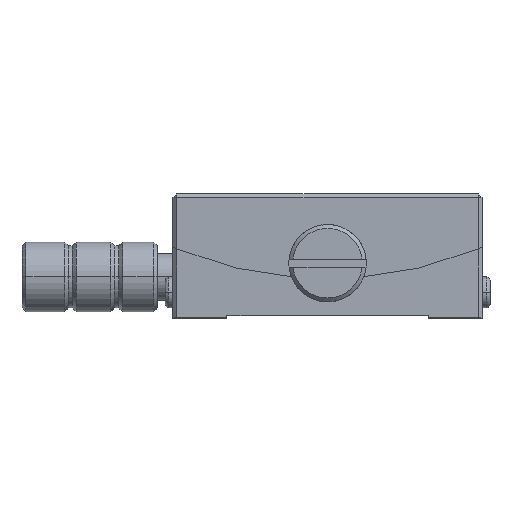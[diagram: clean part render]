
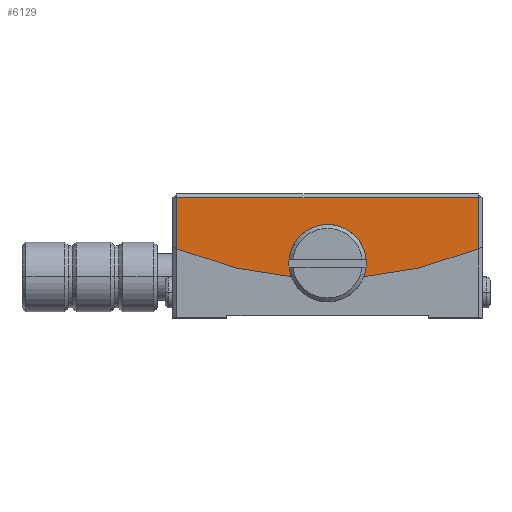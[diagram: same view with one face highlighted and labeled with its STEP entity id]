
A CAD part, top view. The second image highlights one B-rep face of the part: STEP entity #6129.
In plain terms, the highlighted planar face has unit normal (0, 0, 1).
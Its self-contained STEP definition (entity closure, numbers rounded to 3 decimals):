
#84 = VERTEX_POINT ( 'NONE', #3446 ) ;
#481 = CARTESIAN_POINT ( 'NONE',  ( 0., 0., 20. ) ) ;
#630 = DIRECTION ( 'NONE',  ( 0., 0., -1. ) ) ;
#687 = VERTEX_POINT ( 'NONE', #2054 ) ;
#731 = AXIS2_PLACEMENT_3D ( 'NONE', #481, #4811, #7639 ) ;
#1349 = CARTESIAN_POINT ( 'NONE',  ( 0., 48., 20. ) ) ;
#1579 = AXIS2_PLACEMENT_3D ( 'NONE', #8036, #2287, #4500 ) ;
#2028 = CIRCLE ( 'NONE', #1579, 1.5 ) ;
#2054 = CARTESIAN_POINT ( 'NONE',  ( 19.5, 7.5, 20. ) ) ;
#2080 = DIRECTION ( 'NONE',  ( -1., 0., 0. ) ) ;
#2287 = DIRECTION ( 'NONE',  ( 0., 0., 1. ) ) ;
#2627 = CIRCLE ( 'NONE', #4257, 50.98 ) ;
#2758 = ORIENTED_EDGE ( 'NONE', *, *, #3295, .F. ) ;
#2993 = EDGE_CURVE ( 'NONE', #4637, #84, #2028, .T. ) ;
#3012 = DIRECTION ( 'NONE',  ( 0., 1., 0. ) ) ;
#3156 = CARTESIAN_POINT ( 'NONE',  ( 19.5, 0., 20. ) ) ;
#3281 = LINE ( 'NONE', #8929, #5606 ) ;
#3291 = EDGE_LOOP ( 'NONE', ( #2758, #3621, #5713, #6915 ) ) ;
#3295 = EDGE_CURVE ( 'NONE', #9117, #6984, #7366, .T. ) ;
#3414 = DIRECTION ( 'NONE',  ( 0., 0., 1. ) ) ;
#3446 = CARTESIAN_POINT ( 'NONE',  ( 1.5, -0.98, 20. ) ) ;
#3621 = ORIENTED_EDGE ( 'NONE', *, *, #4152, .F. ) ;
#3666 = VECTOR ( 'NONE', #5930, 1000. ) ;
#3717 = CARTESIAN_POINT ( 'NONE',  ( -1.5, -0.98, 20. ) ) ;
#4099 = VECTOR ( 'NONE', #3012, 1000. ) ;
#4152 = EDGE_CURVE ( 'NONE', #6060, #9117, #2627, .T. ) ;
#4257 = AXIS2_PLACEMENT_3D ( 'NONE', #1349, #630, #2080 ) ;
#4297 = EDGE_LOOP ( 'NONE', ( #5125, #7955 ) ) ;
#4500 = DIRECTION ( 'NONE',  ( -1., 0., 0. ) ) ;
#4637 = VERTEX_POINT ( 'NONE', #3717 ) ;
#4727 = EDGE_CURVE ( 'NONE', #687, #6060, #6112, .T. ) ;
#4811 = DIRECTION ( 'NONE',  ( 0., 0., -1. ) ) ;
#5125 = ORIENTED_EDGE ( 'NONE', *, *, #2993, .F. ) ;
#5185 = CARTESIAN_POINT ( 'NONE',  ( -19.5, 0., 20. ) ) ;
#5305 = CARTESIAN_POINT ( 'NONE',  ( -19.5, 0.897, 20. ) ) ;
#5606 = VECTOR ( 'NONE', #7400, 1000. ) ;
#5713 = ORIENTED_EDGE ( 'NONE', *, *, #4727, .F. ) ;
#5915 = EDGE_CURVE ( 'NONE', #687, #6984, #3281, .T. ) ;
#5930 = DIRECTION ( 'NONE',  ( 0., -1., 0. ) ) ;
#6060 = VERTEX_POINT ( 'NONE', #7592 ) ;
#6069 = AXIS2_PLACEMENT_3D ( 'NONE', #7628, #3414, #6928 ) ;
#6112 = LINE ( 'NONE', #3156, #3666 ) ;
#6129 = ADVANCED_FACE ( 'NONE', ( #8241, #7550 ), #6841, .F. ) ;
#6841 = PLANE ( 'NONE',  #731 ) ;
#6915 = ORIENTED_EDGE ( 'NONE', *, *, #5915, .T. ) ;
#6928 = DIRECTION ( 'NONE',  ( -1., 0., 0. ) ) ;
#6984 = VERTEX_POINT ( 'NONE', #7485 ) ;
#7366 = LINE ( 'NONE', #5185, #4099 ) ;
#7400 = DIRECTION ( 'NONE',  ( -1., 0., 0. ) ) ;
#7485 = CARTESIAN_POINT ( 'NONE',  ( -19.5, 7.5, 20. ) ) ;
#7550 = FACE_BOUND ( 'NONE', #4297, .T. ) ;
#7592 = CARTESIAN_POINT ( 'NONE',  ( 19.5, 0.897, 20. ) ) ;
#7628 = CARTESIAN_POINT ( 'NONE',  ( 0., -0.98, 20. ) ) ;
#7639 = DIRECTION ( 'NONE',  ( -1., 0., 0. ) ) ;
#7955 = ORIENTED_EDGE ( 'NONE', *, *, #8964, .F. ) ;
#8036 = CARTESIAN_POINT ( 'NONE',  ( 0., -0.98, 20. ) ) ;
#8241 = FACE_OUTER_BOUND ( 'NONE', #3291, .T. ) ;
#8740 = CIRCLE ( 'NONE', #6069, 1.5 ) ;
#8929 = CARTESIAN_POINT ( 'NONE',  ( 0., 7.5, 20. ) ) ;
#8964 = EDGE_CURVE ( 'NONE', #84, #4637, #8740, .T. ) ;
#9117 = VERTEX_POINT ( 'NONE', #5305 ) ;
